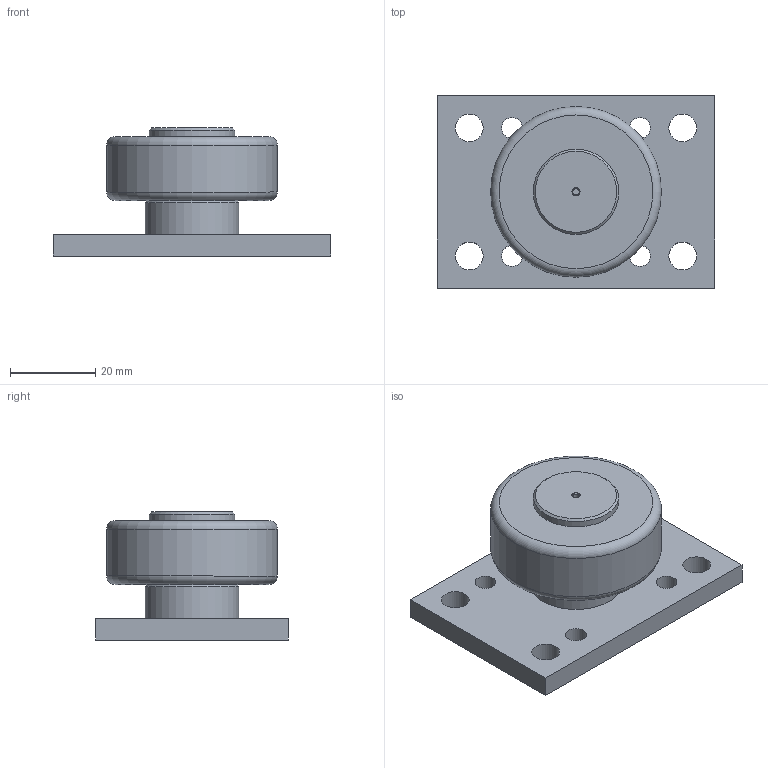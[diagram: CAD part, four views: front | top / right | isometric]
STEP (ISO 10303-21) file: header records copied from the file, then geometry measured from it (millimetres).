
FILE_DESCRIPTION(/* description */ ('-','CAx-IF Rec.Pracs.---Representation and Presentation of Product Manufacturing Information (PMI)---4.0---2014-10-13'),/* implementation_level */ '2;1');
FILE_NAME(/* name */ 'c:\temp\25cfd487-5da8-4ced-97f8-af4987b20c22\b92ba4cb-d124-4d74-8ef1-4c49c3c07390.stp',/* time_stamp */ '2020-03-30T16:56:10+02:00',/* author */ ('-'),/* organization */ ('NTI CADcenter A/S'),/* preprocessor_version */ 'ST-DEVELOPER v18',/* originating_system */ 'Autodesk Inventor 2020',/* authorisation */ '-');
FILE_SCHEMA (('AP242_MANAGED_MODEL_BASED_3D_ENGINEERING_MIM_LF { 1 0 10303 442 1 1 4 }'));
Length unit declared in the file: millimetre
Products named in the file (1): AS040.0360 BR3100-16151_Kontur
Bounding box: 65 x 45 x 30 mm (x, y, z)
Volume: 35869.7 mm3; surface area: 11384.4 mm2
Topology: 1 solids, 1 shells, 27 faces, 76 edges, 55 vertices
Faces by surface type: cylinder 12, plane 10, cone 3, torus 2
Full cylindrical faces by diameter (mm): 1.5 x1, 4.917 x4, 6.5 x4, 20 x1, 22 x1, 40 x1
Entity records: 1077 total; most frequent: DIRECTION 181, CARTESIAN_POINT 159, ORIENTED_EDGE 152, AXIS2_PLACEMENT_3D 77, EDGE_CURVE 76, VERTEX_POINT 55, CIRCLE 49, EDGE_LOOP 47
